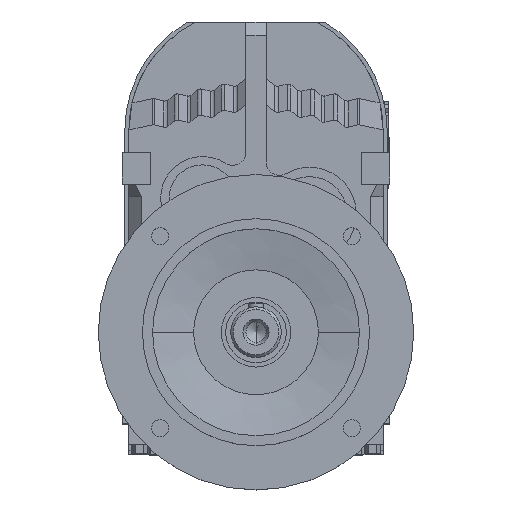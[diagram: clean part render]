
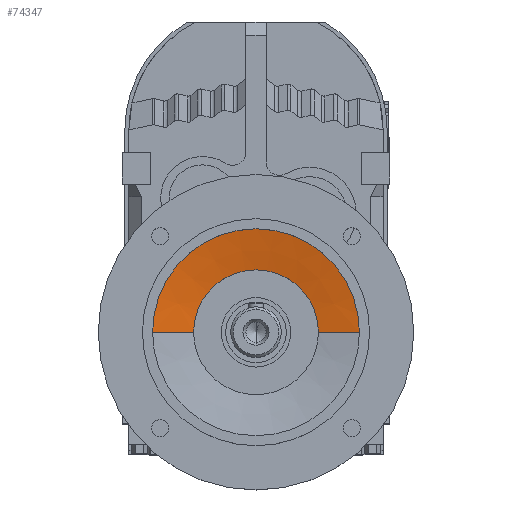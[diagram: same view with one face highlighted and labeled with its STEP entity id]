
A CAD part, top view. The second image highlights one B-rep face of the part: STEP entity #74347.
In plain terms, the highlighted conical face has half-angle 79.54 degrees and reference radius 82 mm.
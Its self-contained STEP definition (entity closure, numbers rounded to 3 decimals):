
#73892 = CYLINDRICAL_SURFACE('',#73893,82.);
#73893 = AXIS2_PLACEMENT_3D('',#73894,#73895,#73896);
#73894 = CARTESIAN_POINT('',(0.,-159.5,0.));
#73895 = DIRECTION('',(0.,0.,-1.));
#73896 = DIRECTION('',(-1.,0.,0.));
#74004 = VERTEX_POINT('',#74005);
#74005 = CARTESIAN_POINT('',(-82.,-159.5,178.5));
#74025 = VERTEX_POINT('',#74026);
#74026 = CARTESIAN_POINT('',(82.,-159.5,178.5));
#74040 = CONICAL_SURFACE('',#74041,82.,1.388);
#74041 = AXIS2_PLACEMENT_3D('',#74042,#74043,#74044);
#74042 = CARTESIAN_POINT('',(0.,-159.5,178.5));
#74043 = DIRECTION('',(0.,0.,1.));
#74044 = DIRECTION('',(1.,0.,0.));
#74097 = EDGE_CURVE('',#74004,#74025,#74098,.T.);
#74098 = SURFACE_CURVE('',#74099,(#74104,#74110),.PCURVE_S1.);
#74099 = CIRCLE('',#74100,82.);
#74100 = AXIS2_PLACEMENT_3D('',#74101,#74102,#74103);
#74101 = CARTESIAN_POINT('',(0.,-159.5,178.5));
#74102 = DIRECTION('',(0.,0.,-1.));
#74103 = DIRECTION('',(-1.,0.,0.));
#74104 = PCURVE('',#73892,#74105);
#74105 = DEFINITIONAL_REPRESENTATION('',(#74106),#74109);
#74106 = B_SPLINE_CURVE_WITH_KNOTS('',1,(#74107,#74108),.UNSPECIFIED.,
  .F.,.F.,(2,2),(0.,3.142),.PIECEWISE_BEZIER_KNOTS.);
#74107 = CARTESIAN_POINT('',(0.,-178.5));
#74108 = CARTESIAN_POINT('',(3.142,-178.5));
#74109 = ( GEOMETRIC_REPRESENTATION_CONTEXT(2) 
PARAMETRIC_REPRESENTATION_CONTEXT() REPRESENTATION_CONTEXT('2D SPACE',''
  ) );
#74110 = PCURVE('',#74111,#74116);
#74111 = CONICAL_SURFACE('',#74112,82.,1.388);
#74112 = AXIS2_PLACEMENT_3D('',#74113,#74114,#74115);
#74113 = CARTESIAN_POINT('',(0.,-159.5,178.5));
#74114 = DIRECTION('',(0.,0.,1.));
#74115 = DIRECTION('',(1.,0.,0.));
#74116 = DEFINITIONAL_REPRESENTATION('',(#74117),#74143);
#74117 = B_SPLINE_CURVE_WITH_KNOTS('',3,(#74118,#74119,#74120,#74121,
    #74122,#74123,#74124,#74125,#74126,#74127,#74128,#74129,#74130,
    #74131,#74132,#74133,#74134,#74135,#74136,#74137,#74138,#74139,
    #74140,#74141,#74142),.UNSPECIFIED.,.F.,.F.,(4,1,1,1,1,1,1,1,1,1,1,1
    ,1,1,1,1,1,1,1,1,1,1,4),(0.,0.143,0.286,
    0.428,0.571,0.714,0.857,
    1.,1.142,1.285,1.428,
    1.571,1.714,1.856,1.999,
    2.142,2.285,2.428,2.57,
    2.713,2.856,2.999,3.142),
  .QUASI_UNIFORM_KNOTS.);
#74118 = CARTESIAN_POINT('',(3.142,0.));
#74119 = CARTESIAN_POINT('',(3.094,0.));
#74120 = CARTESIAN_POINT('',(2.999,0.));
#74121 = CARTESIAN_POINT('',(2.856,0.));
#74122 = CARTESIAN_POINT('',(2.713,0.));
#74123 = CARTESIAN_POINT('',(2.57,0.));
#74124 = CARTESIAN_POINT('',(2.428,0.));
#74125 = CARTESIAN_POINT('',(2.285,0.));
#74126 = CARTESIAN_POINT('',(2.142,0.));
#74127 = CARTESIAN_POINT('',(1.999,0.));
#74128 = CARTESIAN_POINT('',(1.856,0.));
#74129 = CARTESIAN_POINT('',(1.714,0.));
#74130 = CARTESIAN_POINT('',(1.571,0.));
#74131 = CARTESIAN_POINT('',(1.428,0.));
#74132 = CARTESIAN_POINT('',(1.285,0.));
#74133 = CARTESIAN_POINT('',(1.142,0.));
#74134 = CARTESIAN_POINT('',(1.,0.));
#74135 = CARTESIAN_POINT('',(0.857,0.));
#74136 = CARTESIAN_POINT('',(0.714,0.));
#74137 = CARTESIAN_POINT('',(0.571,0.));
#74138 = CARTESIAN_POINT('',(0.428,0.));
#74139 = CARTESIAN_POINT('',(0.286,0.));
#74140 = CARTESIAN_POINT('',(0.143,0.));
#74141 = CARTESIAN_POINT('',(0.048,0.));
#74142 = CARTESIAN_POINT('',(0.,0.));
#74143 = ( GEOMETRIC_REPRESENTATION_CONTEXT(2) 
PARAMETRIC_REPRESENTATION_CONTEXT() REPRESENTATION_CONTEXT('2D SPACE',''
  ) );
#74258 = VERTEX_POINT('',#74259);
#74259 = CARTESIAN_POINT('',(49.5,-159.5,172.5));
#74260 = VERTEX_POINT('',#74261);
#74261 = CARTESIAN_POINT('',(-49.5,-159.5,172.5));
#74309 = EDGE_CURVE('',#74258,#74025,#74310,.T.);
#74310 = SURFACE_CURVE('',#74311,(#74315,#74321),.PCURVE_S1.);
#74311 = LINE('',#74312,#74313);
#74312 = CARTESIAN_POINT('',(82.,-159.5,178.5));
#74313 = VECTOR('',#74314,1.);
#74314 = DIRECTION('',(0.983,0.,0.182));
#74315 = PCURVE('',#74040,#74316);
#74316 = DEFINITIONAL_REPRESENTATION('',(#74317),#74320);
#74317 = B_SPLINE_CURVE_WITH_KNOTS('',1,(#74318,#74319),.UNSPECIFIED.,
  .F.,.F.,(2,2),(-33.049,0.),.PIECEWISE_BEZIER_KNOTS.);
#74318 = CARTESIAN_POINT('',(6.283,-6.));
#74319 = CARTESIAN_POINT('',(6.283,0.));
#74320 = ( GEOMETRIC_REPRESENTATION_CONTEXT(2) 
PARAMETRIC_REPRESENTATION_CONTEXT() REPRESENTATION_CONTEXT('2D SPACE',''
  ) );
#74321 = PCURVE('',#74111,#74322);
#74322 = DEFINITIONAL_REPRESENTATION('',(#74323),#74326);
#74323 = B_SPLINE_CURVE_WITH_KNOTS('',1,(#74324,#74325),.UNSPECIFIED.,
  .F.,.F.,(2,2),(-33.049,0.),.PIECEWISE_BEZIER_KNOTS.);
#74324 = CARTESIAN_POINT('',(0.,-6.));
#74325 = CARTESIAN_POINT('',(0.,0.));
#74326 = ( GEOMETRIC_REPRESENTATION_CONTEXT(2) 
PARAMETRIC_REPRESENTATION_CONTEXT() REPRESENTATION_CONTEXT('2D SPACE',''
  ) );
#74329 = EDGE_CURVE('',#74260,#74004,#74330,.T.);
#74330 = SURFACE_CURVE('',#74331,(#74335,#74341),.PCURVE_S1.);
#74331 = LINE('',#74332,#74333);
#74332 = CARTESIAN_POINT('',(-82.,-159.5,178.5));
#74333 = VECTOR('',#74334,1.);
#74334 = DIRECTION('',(-0.983,0.,
    0.182));
#74335 = PCURVE('',#74040,#74336);
#74336 = DEFINITIONAL_REPRESENTATION('',(#74337),#74340);
#74337 = B_SPLINE_CURVE_WITH_KNOTS('',1,(#74338,#74339),.UNSPECIFIED.,
  .F.,.F.,(2,2),(-33.049,0.),.PIECEWISE_BEZIER_KNOTS.);
#74338 = CARTESIAN_POINT('',(3.142,-6.));
#74339 = CARTESIAN_POINT('',(3.142,0.));
#74340 = ( GEOMETRIC_REPRESENTATION_CONTEXT(2) 
PARAMETRIC_REPRESENTATION_CONTEXT() REPRESENTATION_CONTEXT('2D SPACE',''
  ) );
#74341 = PCURVE('',#74111,#74342);
#74342 = DEFINITIONAL_REPRESENTATION('',(#74343),#74346);
#74343 = B_SPLINE_CURVE_WITH_KNOTS('',1,(#74344,#74345),.UNSPECIFIED.,
  .F.,.F.,(2,2),(-33.049,0.),.PIECEWISE_BEZIER_KNOTS.);
#74344 = CARTESIAN_POINT('',(3.142,-6.));
#74345 = CARTESIAN_POINT('',(3.142,0.));
#74346 = ( GEOMETRIC_REPRESENTATION_CONTEXT(2) 
PARAMETRIC_REPRESENTATION_CONTEXT() REPRESENTATION_CONTEXT('2D SPACE',''
  ) );
#74347 = ADVANCED_FACE('',(#74348),#74111,.F.);
#74348 = FACE_BOUND('',#74349,.F.);
#74349 = EDGE_LOOP('',(#74350,#74351,#74352,#74353));
#74350 = ORIENTED_EDGE('',*,*,#74329,.T.);
#74351 = ORIENTED_EDGE('',*,*,#74097,.T.);
#74352 = ORIENTED_EDGE('',*,*,#74309,.F.);
#74353 = ORIENTED_EDGE('',*,*,#74354,.F.);
#74354 = EDGE_CURVE('',#74260,#74258,#74355,.T.);
#74355 = SURFACE_CURVE('',#74356,(#74361,#74390),.PCURVE_S1.);
#74356 = CIRCLE('',#74357,49.5);
#74357 = AXIS2_PLACEMENT_3D('',#74358,#74359,#74360);
#74358 = CARTESIAN_POINT('',(0.,-159.5,172.5));
#74359 = DIRECTION('',(0.,0.,-1.));
#74360 = DIRECTION('',(-1.,0.,0.));
#74361 = PCURVE('',#74111,#74362);
#74362 = DEFINITIONAL_REPRESENTATION('',(#74363),#74389);
#74363 = B_SPLINE_CURVE_WITH_KNOTS('',3,(#74364,#74365,#74366,#74367,
    #74368,#74369,#74370,#74371,#74372,#74373,#74374,#74375,#74376,
    #74377,#74378,#74379,#74380,#74381,#74382,#74383,#74384,#74385,
    #74386,#74387,#74388),.UNSPECIFIED.,.F.,.F.,(4,1,1,1,1,1,1,1,1,1,1,1
    ,1,1,1,1,1,1,1,1,1,1,4),(0.,0.143,0.286,
    0.428,0.571,0.714,0.857,
    1.,1.142,1.285,1.428,
    1.571,1.714,1.856,1.999,
    2.142,2.285,2.428,2.57,
    2.713,2.856,2.999,3.142),
  .QUASI_UNIFORM_KNOTS.);
#74364 = CARTESIAN_POINT('',(3.142,-6.));
#74365 = CARTESIAN_POINT('',(3.094,-6.));
#74366 = CARTESIAN_POINT('',(2.999,-6.));
#74367 = CARTESIAN_POINT('',(2.856,-6.));
#74368 = CARTESIAN_POINT('',(2.713,-6.));
#74369 = CARTESIAN_POINT('',(2.57,-6.));
#74370 = CARTESIAN_POINT('',(2.428,-6.));
#74371 = CARTESIAN_POINT('',(2.285,-6.));
#74372 = CARTESIAN_POINT('',(2.142,-6.));
#74373 = CARTESIAN_POINT('',(1.999,-6.));
#74374 = CARTESIAN_POINT('',(1.856,-6.));
#74375 = CARTESIAN_POINT('',(1.714,-6.));
#74376 = CARTESIAN_POINT('',(1.571,-6.));
#74377 = CARTESIAN_POINT('',(1.428,-6.));
#74378 = CARTESIAN_POINT('',(1.285,-6.));
#74379 = CARTESIAN_POINT('',(1.142,-6.));
#74380 = CARTESIAN_POINT('',(1.,-6.));
#74381 = CARTESIAN_POINT('',(0.857,-6.));
#74382 = CARTESIAN_POINT('',(0.714,-6.));
#74383 = CARTESIAN_POINT('',(0.571,-6.));
#74384 = CARTESIAN_POINT('',(0.428,-6.));
#74385 = CARTESIAN_POINT('',(0.286,-6.));
#74386 = CARTESIAN_POINT('',(0.143,-6.));
#74387 = CARTESIAN_POINT('',(0.048,-6.));
#74388 = CARTESIAN_POINT('',(0.,-6.));
#74389 = ( GEOMETRIC_REPRESENTATION_CONTEXT(2) 
PARAMETRIC_REPRESENTATION_CONTEXT() REPRESENTATION_CONTEXT('2D SPACE',''
  ) );
#74390 = PCURVE('',#74391,#74396);
#74391 = CYLINDRICAL_SURFACE('',#74392,49.5);
#74392 = AXIS2_PLACEMENT_3D('',#74393,#74394,#74395);
#74393 = CARTESIAN_POINT('',(0.,-159.5,0.));
#74394 = DIRECTION('',(0.,0.,-1.));
#74395 = DIRECTION('',(-1.,0.,0.));
#74396 = DEFINITIONAL_REPRESENTATION('',(#74397),#74400);
#74397 = B_SPLINE_CURVE_WITH_KNOTS('',1,(#74398,#74399),.UNSPECIFIED.,
  .F.,.F.,(2,2),(0.,3.142),.PIECEWISE_BEZIER_KNOTS.);
#74398 = CARTESIAN_POINT('',(0.,-172.5));
#74399 = CARTESIAN_POINT('',(3.142,-172.5));
#74400 = ( GEOMETRIC_REPRESENTATION_CONTEXT(2) 
PARAMETRIC_REPRESENTATION_CONTEXT() REPRESENTATION_CONTEXT('2D SPACE',''
  ) );
